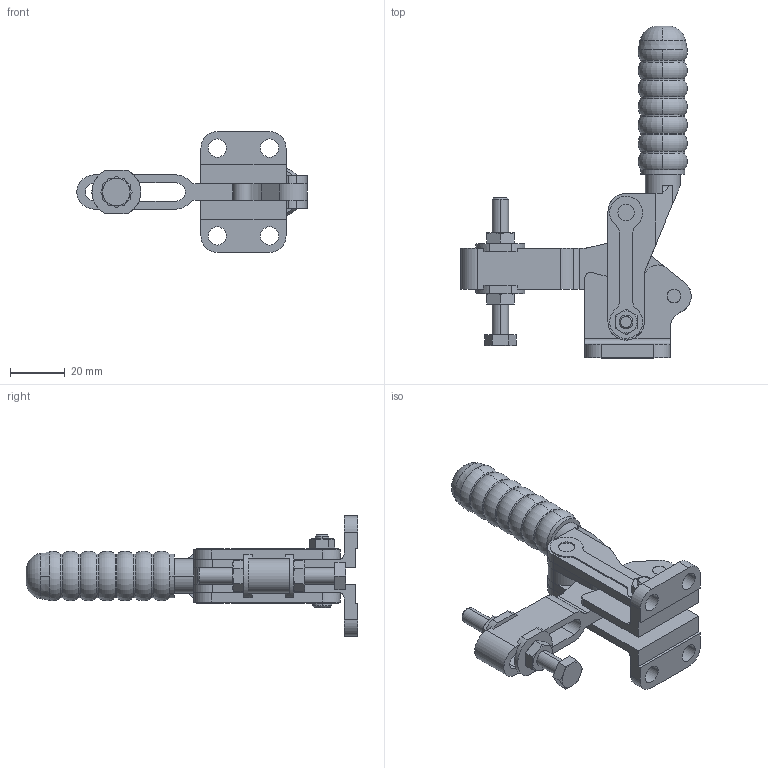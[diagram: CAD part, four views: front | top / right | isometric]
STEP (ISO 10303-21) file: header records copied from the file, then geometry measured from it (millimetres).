
FILE_DESCRIPTION( ( '' ), '1' );
FILE_NAME( '//partserver002.servicenet/client_exchange/iodir/jobs/output/wkb5782701_no2/STEP/va300_2b_2_03.stp', '2006-11-29T10:38:58', ( '' ), ( '' ), ' ', ' ', ' ' );
FILE_SCHEMA( ( 'CONFIG_CONTROL_DESIGN' ) );
Length unit declared in the file: millimetre
Products named in the file (8): 1; 2; 3; 4; 5; 6; 7; 8
Bounding box: 83.9 x 120.87 x 44 mm (x, y, z)
Volume: 44365.8 mm3; surface area: 29970.3 mm2
Topology: 8 solids, 8 shells, 345 faces, 862 edges, 554 vertices
Faces by surface type: cylinder 139, plane 129, cone 60, torus 16, sphere 1
Entity records: 10703 total; most frequent: CARTESIAN_POINT 1969, DIRECTION 1875, ORIENTED_EDGE 1716, EDGE_CURVE 858, AXIS2_PLACEMENT_3D 752, VERTEX_POINT 554, CIRCLE 395, EDGE_LOOP 394
